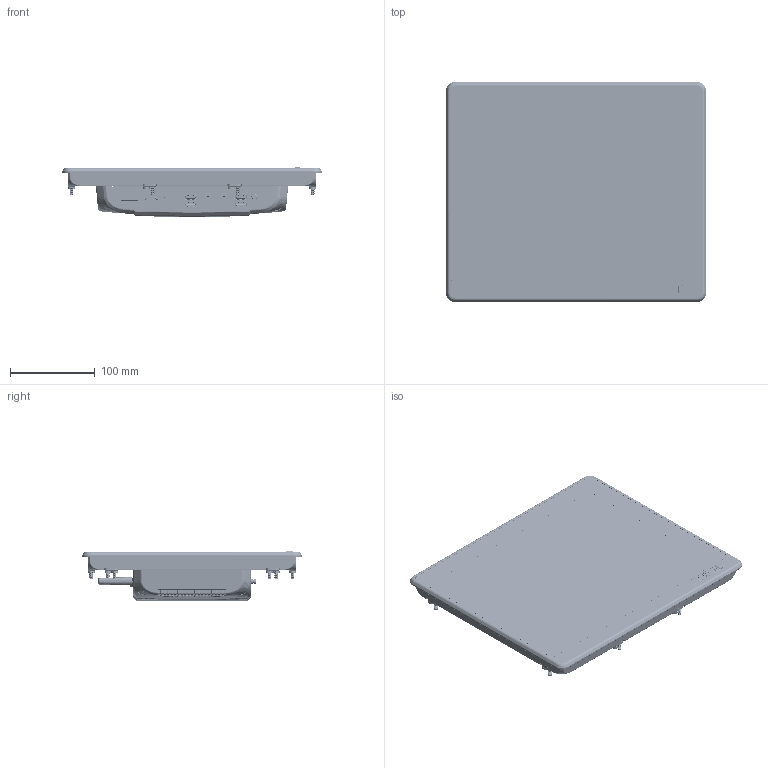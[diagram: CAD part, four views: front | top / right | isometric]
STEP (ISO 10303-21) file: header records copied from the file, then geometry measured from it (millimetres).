
FILE_DESCRIPTION (( 'STEP AP214' ), '1' );
FILE_NAME ('121.STEP', '2024-04-25T02:53:24', ( '' ), ( '' ), 'SwSTEP 2.0', 'SolidWorks 2018', '' );
FILE_SCHEMA (( 'AUTOMOTIVE_DESIGN' ));
Length unit declared in the file: millimetre
Products named in the file (4): USB寡湍.step; 芩嫉む砐醴6462窒煦; IDD22121; 121
Assembly tree (3 placements, depth 2):
  121
    IDD22121
    芩嫉む砐醴6462窒煦
    USB寡湍.step
Bounding box: 305.76 x 258.76 x 58.5 mm (x, y, z)
Volume: 583566.7 mm3; surface area: 538994.7 mm2
Topology: 28 solids, 197 shells, 10373 faces, 26505 edges, 16413 vertices
Faces by surface type: plane 4376, cylinder 2787, bspline 2187, torus 637, sphere 226, cone 160
Full cylindrical faces by diameter (mm): 0.6 x18, 0.8 x4, 1 x10, 1.1 x24, 1.2 x9, 2 x2, 2.2 x16, 2.3 x2, 2.5 x2, 2.6 x2, 2.975 x2, 3 x7, 3.136 x2, 3.2 x28, 3.3 x8, 3.5 x5, 4 x216, 4.2 x6, 4.5 x10, 4.9 x2, 5 x8, 5.1 x8, 5.9 x1, 6 x17, 6.5 x1, 7.306 x4, 7.6 x1, 8 x8, 8.1 x2, 8.429 x4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
Entity records: 530975 total; most frequent: CARTESIAN_POINT 194523, ORIENTED_EDGE 49964, DIRECTION 41492, EDGE_CURVE 24987, VERTEX_POINT 15838, AXIS2_PLACEMENT_3D 14276, VECTOR 12940, LINE 12940
